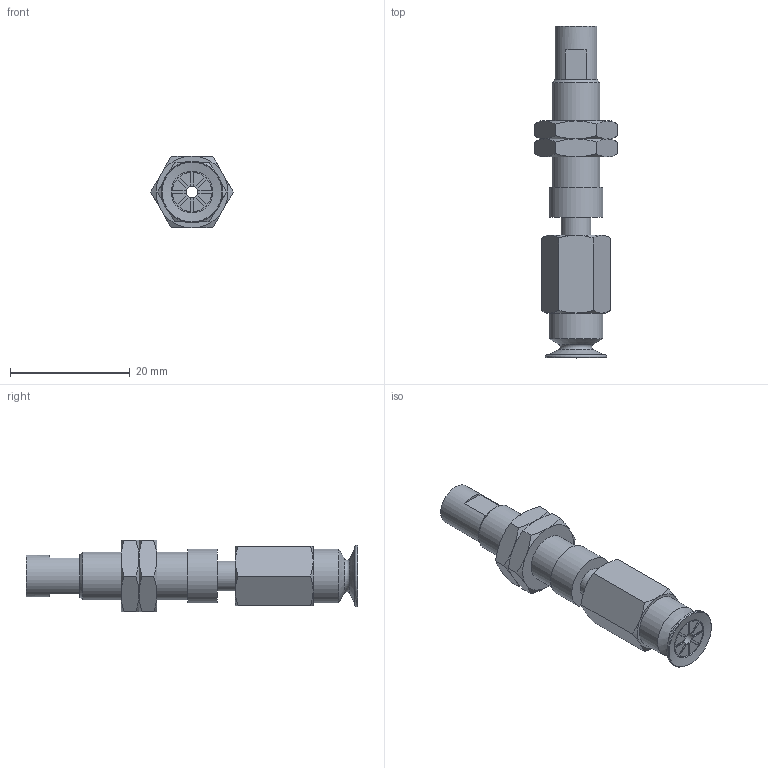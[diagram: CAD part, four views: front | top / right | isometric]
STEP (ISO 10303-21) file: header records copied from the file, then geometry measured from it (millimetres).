
FILE_DESCRIPTION(('STEP AP203'),'1');
FILE_NAME('.stp','2025-08-26T08:40:36',(' '),(' '),'Spatial InterOp 3D',' ',' ');
FILE_SCHEMA(('CONFIG_CONTROL_DESIGN'));
Length unit declared in the file: millimetre
Products named in the file (6): BNABPATS-10B-3-※; ADAPTER; NAPATS-10A-3--M; NAPATS-10A-3--F; Nut-10A-S; BPAG-10B-※_3D
Assembly tree (6 placements, depth 2):
  BNABPATS-10B-3-※
    ADAPTER
    NAPATS-10A-3--M
    NAPATS-10A-3--F
    Nut-10A-S  x2
    BPAG-10B-※_3D
Bounding box: 13.86 x 55.5 x 12 mm (x, y, z)
Volume: 3405.8 mm3; surface area: 3950.7 mm2
Topology: 6 solids, 6 shells, 147 faces, 334 edges, 206 vertices
Faces by surface type: plane 65, cone 46, cylinder 25, torus 11
Full cylindrical faces by diameter (mm): 2 x3, 4 x2, 4.134 x1, 5 x2, 6 x2, 7 x2, 7.188 x2, 8 x1, 9 x2
Entity records: 3762 total; most frequent: CARTESIAN_POINT 831, DIRECTION 564, ORIENTED_EDGE 484, EDGE_CURVE 242, AXIS2_PLACEMENT_3D 239, EDGE_LOOP 176, VERTEX_POINT 170, FACE_OUTER_BOUND 151
